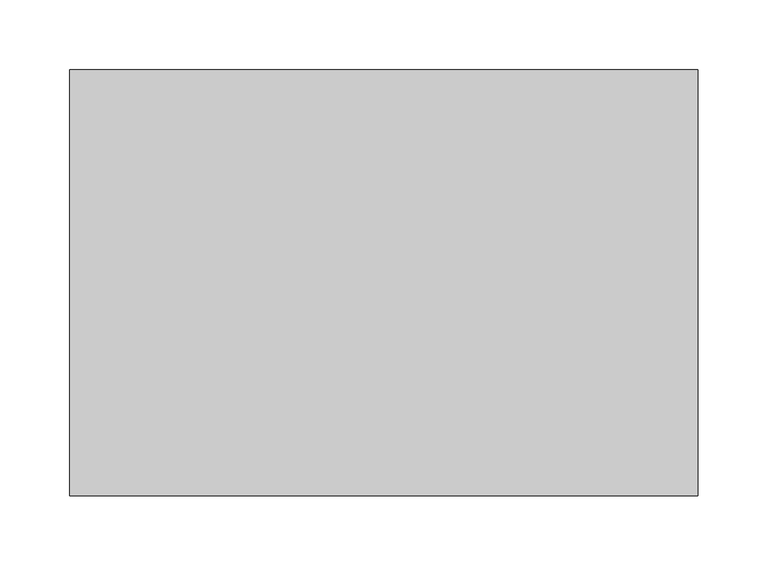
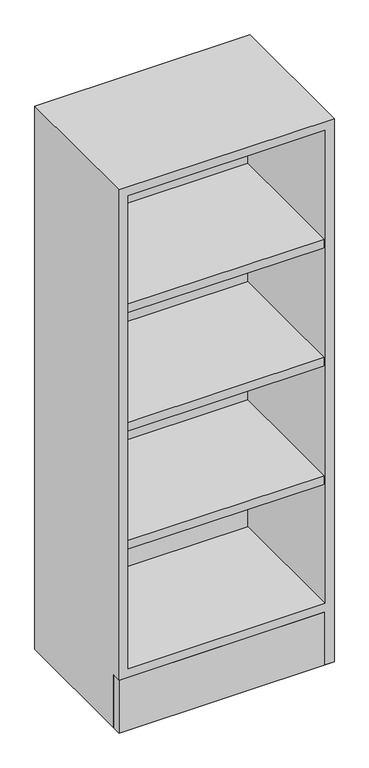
"""IFC4 building model written with IfcOpenShell, lengths in millimetres: furniture geometry, Hamilton-Sorter_Modular-Casework_Storage-Cabinet_Open : Hamilton-Sorter_Modular-Casework_Storage-Cabinet_Open."""

import ifcopenshell
import ifcopenshell.guid

model = None  # the IFC model being written
_history = None  # IfcOwnerHistory: only IFC2X3 demands one
_inside = {}  # id of a spatial element -> (the spatial element, [elements in it])
_under = {}  # id of a project, library or spatial element -> (it, [spatial elements below it])
_declared = {}  # id of a project -> (the project, [libraries it declares])
_typed = {}  # id of a type object -> (the type object, [elements of that type])
_made_of = {}  # id of a material, layer set ... -> (it, [elements and type objects made of it])


def new_model(schema):
    """Start an empty IFC model of exactly this schema.

    Asked for "IFC4X3", IfcOpenShell would pick the latest addendum, in which some entities
    have other attributes; the version numbers below select the first issue.
    IFC2X3 requires an IfcOwnerHistory on every rooted entity: one is made here for all.
    """
    global model, _history
    if schema == "IFC4X3":
        model = ifcopenshell.file(schema_version=(4, 3, 0, 0))
    else:
        model = ifcopenshell.file(schema=schema)
    _inside.clear()
    _under.clear()
    _declared.clear()
    _typed.clear()
    _made_of.clear()
    _history = None
    if model.schema == "IFC2X3":
        org = make("IfcOrganization", Name="unknown")
        user = make(
            "IfcPersonAndOrganization",
            ThePerson=make("IfcPerson", FamilyName="unknown"),
            TheOrganization=org,
        )
        app = make(
            "IfcApplication",
            ApplicationDeveloper=org,
            Version="unknown",
            ApplicationFullName="unknown",
            ApplicationIdentifier="unknown",
        )
        _history = make(
            "IfcOwnerHistory",
            OwningUser=user,
            OwningApplication=app,
            ChangeAction="ADDED",
            CreationDate=0,
        )
    return model


def make(cls, **values):
    """One entity of the class cls with the attributes given. An attribute that is None is left unset."""
    return model.create_entity(
        cls, **{name: value for name, value in values.items() if value is not None}
    )


def rooted(cls, **values):
    """An entity with a GlobalId (a new one), such as an element, a storey or a relation."""
    return make(cls, GlobalId=ifcopenshell.guid.new(), OwnerHistory=_history, **values)


def si_unit(unit_type, name, prefix=None):
    """IfcSIUnit, for example si_unit("LENGTHUNIT", "METRE", prefix="MILLI")."""
    return make("IfcSIUnit", UnitType=unit_type, Prefix=prefix, Name=name)


def assignment(units):
    """IfcUnitAssignment: the units of a project."""
    return None if units is None else make("IfcUnitAssignment", Units=units)


def point(xyz):
    """IfcCartesianPoint."""
    return None if xyz is None else make("IfcCartesianPoint", Coordinates=xyz)


def direction(xyz):
    """IfcDirection."""
    return None if xyz is None else make("IfcDirection", DirectionRatios=xyz)


def frame(location, z_axis=None, x_axis=None):
    """IfcAxis2Placement3D, a coordinate frame: its origin and axes. An axis left out is left unset."""
    return make(
        "IfcAxis2Placement3D",
        Location=point(location),
        Axis=direction(z_axis),
        RefDirection=direction(x_axis),
    )


def origin():
    """The frame at (0, 0, 0) with its axes left unset."""
    return frame((0.0, 0.0, 0.0))


def origin_with_axes():
    """The frame at (0, 0, 0) with the z axis (0, 0, 1) and the x axis (1, 0, 0) written out."""
    return frame((0.0, 0.0, 0.0), z_axis=(0.0, 0.0, 1.0), x_axis=(1.0, 0.0, 0.0))


def place(relative_to, where):
    """IfcLocalPlacement: puts the frame where relative to a parent placement (None: the world)."""
    return make(
        "IfcLocalPlacement", PlacementRelTo=relative_to, RelativePlacement=where
    )


def context(
    kind, dimensions, precision=None, world=None, true_north=None, identifier=None
):
    """IfcGeometricRepresentationContext, for example the 3D "Model" context."""
    return make(
        "IfcGeometricRepresentationContext",
        ContextIdentifier=identifier,
        ContextType=kind,
        CoordinateSpaceDimension=dimensions,
        Precision=precision,
        WorldCoordinateSystem=world,
        TrueNorth=true_north,
    )


def project(units=None, contexts=None):
    """IfcProject with its units and contexts."""
    return rooted(
        "IfcProject",
        Name="project",
        RepresentationContexts=contexts,
        UnitsInContext=assignment(units),
    )


def spatial(cls, under=None, at=None, **own):
    """A site, building, storey or space (cls), placed at a placement, below another one or the project."""
    s = rooted(cls, ObjectPlacement=at, **own)
    if under is not None:
        _under.setdefault(under.id(), (under, []))[1].append(s)
    return s


def polyline(points):
    """IfcPolyline through the points."""
    return make("IfcPolyline", Points=[point(p) for p in points])


def outline(outer, holes=None, kind="AREA"):
    """IfcArbitraryClosedProfileDef: a profile drawn as a closed curve; with holes, ...WithVoids."""
    if holes is None:
        return make("IfcArbitraryClosedProfileDef", ProfileType=kind, OuterCurve=outer)
    return make(
        "IfcArbitraryProfileDefWithVoids",
        ProfileType=kind,
        OuterCurve=outer,
        InnerCurves=holes,
    )


def extrude(swept, where, along, depth):
    """IfcExtrudedAreaSolid: the profile swept, set in the frame where, extruded along a direction by depth."""
    return make(
        "IfcExtrudedAreaSolid",
        SweptArea=swept,
        Position=where,
        ExtrudedDirection=direction(along),
        Depth=depth,
    )


def faces_of(points, faces, orient=None, outer=None):
    """IfcFace entities. A face is a list of loops; a loop is a list of indices into points, from 0.

    orient and outer hold one flag for each loop. By default every Orientation is true, the
    first loop of a face is its IfcFaceOuterBound and the others are IfcFaceBound.
    """
    made = []
    for i, loops in enumerate(faces):
        bounds = []
        for j, loop in enumerate(loops):
            is_outer = j == 0 if outer is None else outer[i][j]
            bounds.append(
                make(
                    "IfcFaceOuterBound" if is_outer else "IfcFaceBound",
                    Bound=make("IfcPolyLoop", Polygon=[points[k] for k in loop]),
                    Orientation=True if orient is None else orient[i][j],
                )
            )
        made.append(make("IfcFace", Bounds=bounds))
    return made


def faceted_brep(points, faces, orient=None, outer=None, voids=None):
    """IfcFacetedBrep: a solid bounded by flat faces; with voids (closed shells), ...WithVoids."""
    shared = [point(p) for p in points]
    hull = make("IfcClosedShell", CfsFaces=faces_of(shared, faces, orient, outer))
    if voids is None:
        return make("IfcFacetedBrep", Outer=hull)
    return make(
        "IfcFacetedBrepWithVoids",
        Outer=hull,
        Voids=[
            make(cls, CfsFaces=faces_of(shared, fs, o, b)) for cls, fs, o, b in voids
        ],
    )


def shape(context_of_items, identifier, shape_type, items):
    """IfcShapeRepresentation: the items that make up one representation, for example the "Body"."""
    return make(
        "IfcShapeRepresentation",
        ContextOfItems=context_of_items,
        RepresentationIdentifier=identifier,
        RepresentationType=shape_type,
        Items=items,
    )


def source(mapping_origin, context_of_items, identifier, shape_type, items):
    """IfcRepresentationMap: a shape defined once, which mapped items show again and again."""
    return make(
        "IfcRepresentationMap",
        MappingOrigin=mapping_origin,
        MappedRepresentation=shape(context_of_items, identifier, shape_type, items),
    )


def transform(
    local_origin,
    x_axis=None,
    y_axis=None,
    z_axis=None,
    scale=None,
    scale2=None,
    scale3=None,
    uniform=True,
):
    """IfcCartesianTransformationOperator3D, or its non-uniform kind. x_axis, y_axis, z_axis: its Axis1, 2, 3."""
    if uniform:
        return make(
            "IfcCartesianTransformationOperator3D",
            Axis1=direction(x_axis),
            Axis2=direction(y_axis),
            LocalOrigin=point(local_origin),
            Scale=scale,
            Axis3=direction(z_axis),
        )
    return make(
        "IfcCartesianTransformationOperator3DnonUniform",
        Axis1=direction(x_axis),
        Axis2=direction(y_axis),
        LocalOrigin=point(local_origin),
        Scale=scale,
        Axis3=direction(z_axis),
        Scale2=scale2,
        Scale3=scale3,
    )


def mapped(mapping_source, mapping_target):
    """IfcMappedItem: shows the shape of a source again, moved by a transform."""
    return make(
        "IfcMappedItem", MappingSource=mapping_source, MappingTarget=mapping_target
    )


def made_of(thing, what):
    """Note that an element or type object is made of a material, layer set ...; save() writes the relation."""
    if what is not None:
        _made_of.setdefault(what.id(), (what, []))[1].append(thing)
    return thing


def element(
    cls,
    number,
    at=None,
    inside=None,
    cuts=None,
    type_object=None,
    material=None,
    context=None,
    identifier="Body",
    shape_type=None,
    held_by="IfcProductDefinitionShape",
    body=None,
    shapes=None,
    **own,
):
    """One element of the class cls, such as IfcWall. Its Tag is "e" and its number.

    at: its placement. inside: the storey or other place that contains it. cuts: it is an
    opening in that element (IfcRelVoidsElement). A single representation is given by context,
    identifier, shape_type and body (its items); several are given by shapes. held_by: the class
    of the entity that holds the representations. save() writes the other relations.
    """
    e = rooted(cls, Tag="e%d" % number, ObjectPlacement=at, **own)
    if body is not None:
        shapes = [shape(context, identifier, shape_type, body)]
    if shapes is not None:
        e.Representation = make(held_by, Representations=shapes)
    if inside is not None:
        _inside.setdefault(inside.id(), (inside, []))[1].append(e)
    if cuts is not None:
        rooted(
            "IfcRelVoidsElement", RelatingBuildingElement=cuts, RelatedOpeningElement=e
        )
    if type_object is not None:
        _typed.setdefault(type_object.id(), (type_object, []))[1].append(e)
    return made_of(e, material)


def aggregate(whole, parts):
    """IfcRelAggregates: a whole, such as a stair, and the parts it consists of."""
    return rooted("IfcRelAggregates", RelatingObject=whole, RelatedObjects=parts)


def save(model, path):
    """Write the relations noted so far, then the file.

    IfcRelAggregates (storeys below a building ...), IfcRelContainedInSpatialStructure (elements
    in a storey), IfcRelDefinesByType, IfcRelAssociatesMaterial and IfcRelDeclares: one each for
    every whole, place, type object, material and project.
    """
    for whole, parts in _under.values():
        aggregate(whole, parts)
    for where, things in _inside.values():
        rooted(
            "IfcRelContainedInSpatialStructure",
            RelatedElements=things,
            RelatingStructure=where,
        )
    for kind, things in _typed.values():
        rooted("IfcRelDefinesByType", RelatedObjects=things, RelatingType=kind)
    for what, things in _made_of.values():
        rooted("IfcRelAssociatesMaterial", RelatedObjects=things, RelatingMaterial=what)
    for by, libraries in _declared.values():
        rooted("IfcRelDeclares", RelatingContext=by, RelatedDefinitions=libraries)
    model.write(path)


def furniture_10ea46e1(model_context):
    return source(origin(), model_context, "Body", "SolidModel", [
        faceted_brep([(-205.95, -742.95, 116.8908), (-205.95, -742.95, 0.0), (-205.95, -457.0, 0.0), (-205.95, -457.0, 116.8908), (-205.95, -762.0, 1180.95), (-205.95, -762.0, 135.9408), (-205.95, -482.4, 135.9408), (-205.95, -482.4, 1180.95), (-225.0, -742.95, 116.8908), (-225.0, -742.95, 0.0), (-225.0, -457.0, 0.0), (-225.0, -457.0, 1200.0), (225.0, -457.0, 1200.0), (225.0, -457.0, 0.0), (205.95, -457.0, 0.0), (205.95, -457.0, 116.8908), (-225.0, -762.0, 116.8908), (205.95, -762.0, 116.8908), (-225.0, -762.0, 1200.0), (205.95, -762.0, 0.0), (225.0, -762.0, 0.0), (225.0, -762.0, 1200.0), (205.95, -762.0, 1180.95), (205.95, -762.0, 135.9408), (205.95, -482.4, 135.9408), (205.95, -482.4, 1180.95)], [[[0, 1, 2, 3]], [[4, 5, 6, 7]], [[1, 0, 8, 9]], [[2, 1, 9, 10]], [[10, 11, 12, 13, 14, 15, 3, 2]], [[16, 8, 0, 3, 15, 17]], [[18, 16, 17, 19, 20, 21], [4, 22, 23, 5]], [[24, 6, 5, 23]], [[25, 7, 6, 24]], [[18, 11, 10, 9, 8, 16]], [[23, 22, 25, 24]], [[14, 19, 17, 15]], [[21, 20, 13, 12]], [[13, 20, 19, 14]], [[12, 11, 18, 21]], [[22, 4, 7, 25]]]),
        extrude(outline(polyline([(225.0, -742.95), (225.0, -762.0), (-225.0, -762.0), (-225.0, -742.95), (225.0, -742.95)])), origin_with_axes(), (0.0, 0.0, 1.0), 116.8908),
        extrude(outline(polyline([(205.95, -482.4), (205.95, -758.825), (-205.95, -758.825), (-205.95, -482.4), (205.95, -482.4)])), frame((0.0, 0.0, 919.6977), z_axis=(0.0, 0.0, 1.0), x_axis=(1.0, 0.0, 0.0)), (0.0, 0.0, 1.0), 19.05),
        extrude(outline(polyline([(205.95, -482.4), (205.95, -758.825), (-205.95, -758.825), (-205.95, -482.4), (205.95, -482.4)])), frame((0.0, 0.0, 397.1931), z_axis=(0.0, 0.0, 1.0), x_axis=(1.0, 0.0, 0.0)), (0.0, 0.0, 1.0), 19.05),
        extrude(outline(polyline([(205.95, -482.4), (205.95, -758.825), (-205.95, -758.825), (-205.95, -482.4), (205.95, -482.4)])), frame((0.0, 0.0, 658.4454), z_axis=(0.0, 0.0, 1.0), x_axis=(1.0, 0.0, 0.0)), (0.0, 0.0, 1.0), 19.05),
    ])


if __name__ == "__main__":
    model = new_model("IFC4")
    model_context = context("Model", 3, world=origin())
    ifc_project = project(units=[si_unit("LENGTHUNIT", "METRE", prefix="MILLI")], contexts=[model_context])
    site = spatial("IfcSite", under=ifc_project)
    building = spatial("IfcBuilding", under=site)
    placement = place(None, origin())
    furniture_shape = furniture_10ea46e1(model_context)
    element("IfcFurniture", 1, ObjectType="Hamilton-Sorter_Modular-Casework_Storage-Cabinet_Open : Hamilton-Sorter_Modular-Casework_Storage-Cabinet_Open", at=placement, inside=building, context=model_context, shape_type="MappedRepresentation", body=[
        mapped(furniture_shape, transform((0.0, 0.0, 0.0), x_axis=(1.0, 0.0, 0.0), y_axis=(0.0, 1.0, 0.0), z_axis=(0.0, 0.0, 1.0))),
    ])
    save(model, "model.ifc")
